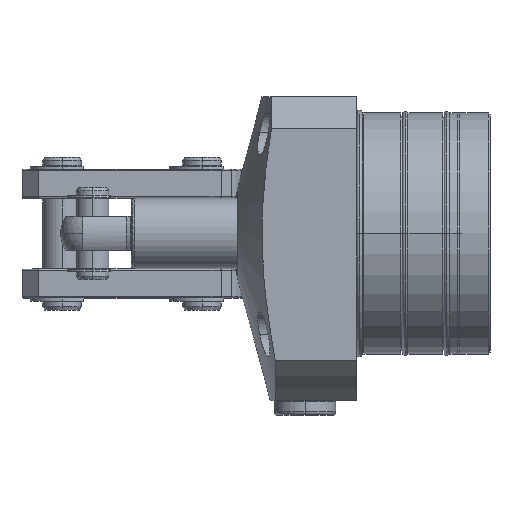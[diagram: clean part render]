
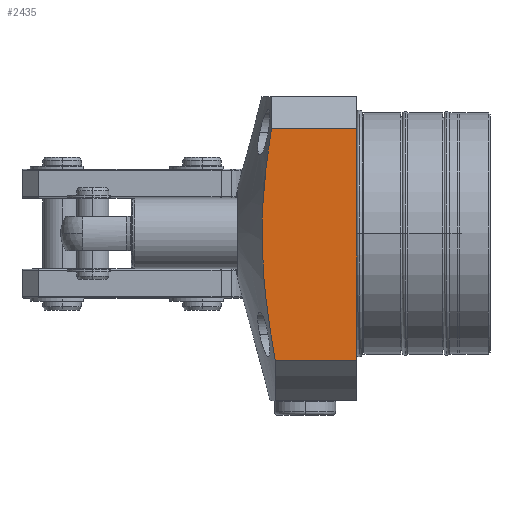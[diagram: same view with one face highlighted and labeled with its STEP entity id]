
A CAD part, top view. The second image highlights one B-rep face of the part: STEP entity #2435.
In plain terms, the highlighted planar face has unit normal (0, 0, 1).
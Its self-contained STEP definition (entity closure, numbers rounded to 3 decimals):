
#1659=PLANE('',#8862);
#1927=B_SPLINE_CURVE_WITH_KNOTS('',3,(#13377,#13378,#13379,#13380,#13381,
#13382),.UNSPECIFIED.,.F.,.F.,(4,2,4),(0.,0.5,1.),.UNSPECIFIED.);
#2435=ADVANCED_FACE('',(#2887),#1659,.F.);
#2887=FACE_OUTER_BOUND('',#3330,.T.);
#3330=EDGE_LOOP('',(#5580,#5581,#5582,#5583));
#3754=LINE('',#13567,#4105);
#3756=LINE('',#13576,#4107);
#3764=LINE('',#13598,#4115);
#4105=VECTOR('',#10805,1.);
#4107=VECTOR('',#10817,1.);
#4115=VECTOR('',#10845,1.);
#5580=ORIENTED_EDGE('',*,*,#7423,.T.);
#5581=ORIENTED_EDGE('',*,*,#7437,.T.);
#5582=ORIENTED_EDGE('',*,*,#7443,.T.);
#5583=ORIENTED_EDGE('',*,*,#7456,.F.);
#6580=VERTEX_POINT('',#13376);
#6581=VERTEX_POINT('',#13383);
#6591=VERTEX_POINT('',#13568);
#6593=VERTEX_POINT('',#13577);
#7423=EDGE_CURVE('',#6581,#6580,#1927,.T.);
#7437=EDGE_CURVE('',#6580,#6591,#3754,.T.);
#7443=EDGE_CURVE('',#6591,#6593,#3756,.T.);
#7456=EDGE_CURVE('',#6581,#6593,#3764,.T.);
#8862=AXIS2_PLACEMENT_3D('',#13600,#10848,#10849);
#10805=DIRECTION('',(1.,0.,0.));
#10817=DIRECTION('',(0.,1.,0.));
#10845=DIRECTION('',(1.,0.,0.));
#10848=DIRECTION('',(0.,0.,-1.));
#10849=DIRECTION('',(1.,0.,0.));
#13376=CARTESIAN_POINT('',(-25.237,-39.468,42.5));
#13377=CARTESIAN_POINT('',(-26.442,32.5,42.5));
#13378=CARTESIAN_POINT('',(-28.387,20.546,42.5));
#13379=CARTESIAN_POINT('',(-29.612,8.574,42.5));
#13380=CARTESIAN_POINT('',(-29.093,-15.451,42.5));
#13381=CARTESIAN_POINT('',(-27.414,-27.528,42.5));
#13382=CARTESIAN_POINT('',(-25.237,-39.468,42.5));
#13383=CARTESIAN_POINT('',(-26.442,32.5,42.5));
#13567=CARTESIAN_POINT('',(-61.,-39.468,42.5));
#13568=CARTESIAN_POINT('',(0.,-39.468,42.5));
#13576=CARTESIAN_POINT('',(0.,32.5,42.5));
#13577=CARTESIAN_POINT('',(0.,32.5,42.5));
#13598=CARTESIAN_POINT('',(-61.,32.5,42.5));
#13600=CARTESIAN_POINT('',(-61.,32.5,42.5));
